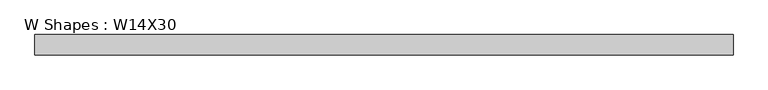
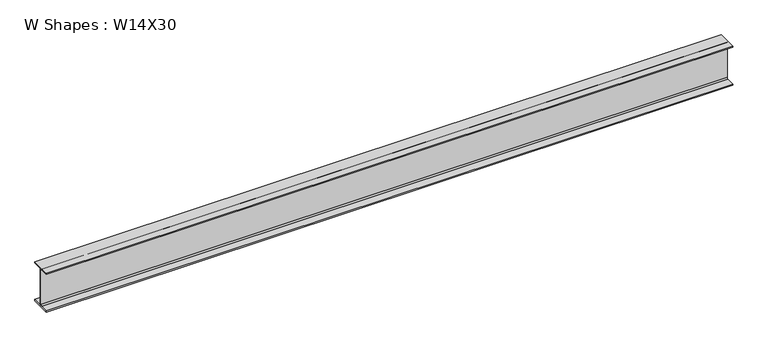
"""IFC4 building model written with IfcOpenShell, lengths in millimetres: beam geometry, W Shapes : W14X30."""

import ifcopenshell
import ifcopenshell.guid

model = None  # the IFC model being written
_history = None  # IfcOwnerHistory: only IFC2X3 demands one
_inside = {}  # id of a spatial element -> (the spatial element, [elements in it])
_under = {}  # id of a project, library or spatial element -> (it, [spatial elements below it])
_declared = {}  # id of a project -> (the project, [libraries it declares])
_typed = {}  # id of a type object -> (the type object, [elements of that type])
_made_of = {}  # id of a material, layer set ... -> (it, [elements and type objects made of it])


def new_model(schema):
    """Start an empty IFC model of exactly this schema.

    Asked for "IFC4X3", IfcOpenShell would pick the latest addendum, in which some entities
    have other attributes; the version numbers below select the first issue.
    IFC2X3 requires an IfcOwnerHistory on every rooted entity: one is made here for all.
    """
    global model, _history
    if schema == "IFC4X3":
        model = ifcopenshell.file(schema_version=(4, 3, 0, 0))
    else:
        model = ifcopenshell.file(schema=schema)
    _inside.clear()
    _under.clear()
    _declared.clear()
    _typed.clear()
    _made_of.clear()
    _history = None
    if model.schema == "IFC2X3":
        org = make("IfcOrganization", Name="unknown")
        user = make(
            "IfcPersonAndOrganization",
            ThePerson=make("IfcPerson", FamilyName="unknown"),
            TheOrganization=org,
        )
        app = make(
            "IfcApplication",
            ApplicationDeveloper=org,
            Version="unknown",
            ApplicationFullName="unknown",
            ApplicationIdentifier="unknown",
        )
        _history = make(
            "IfcOwnerHistory",
            OwningUser=user,
            OwningApplication=app,
            ChangeAction="ADDED",
            CreationDate=0,
        )
    return model


def make(cls, **values):
    """One entity of the class cls with the attributes given. An attribute that is None is left unset."""
    return model.create_entity(
        cls, **{name: value for name, value in values.items() if value is not None}
    )


def rooted(cls, **values):
    """An entity with a GlobalId (a new one), such as an element, a storey or a relation."""
    return make(cls, GlobalId=ifcopenshell.guid.new(), OwnerHistory=_history, **values)


def si_unit(unit_type, name, prefix=None):
    """IfcSIUnit, for example si_unit("LENGTHUNIT", "METRE", prefix="MILLI")."""
    return make("IfcSIUnit", UnitType=unit_type, Prefix=prefix, Name=name)


def assignment(units):
    """IfcUnitAssignment: the units of a project."""
    return None if units is None else make("IfcUnitAssignment", Units=units)


def point(xyz):
    """IfcCartesianPoint."""
    return None if xyz is None else make("IfcCartesianPoint", Coordinates=xyz)


def direction(xyz):
    """IfcDirection."""
    return None if xyz is None else make("IfcDirection", DirectionRatios=xyz)


def frame(location, z_axis=None, x_axis=None):
    """IfcAxis2Placement3D, a coordinate frame: its origin and axes. An axis left out is left unset."""
    return make(
        "IfcAxis2Placement3D",
        Location=point(location),
        Axis=direction(z_axis),
        RefDirection=direction(x_axis),
    )


def frame_2d(location, x_axis=None):
    """IfcAxis2Placement2D, a coordinate frame in the plane: its origin and x axis."""
    return make(
        "IfcAxis2Placement2D", Location=point(location), RefDirection=direction(x_axis)
    )


def origin():
    """The frame at (0, 0, 0) with its axes left unset."""
    return frame((0.0, 0.0, 0.0))


def place(relative_to, where):
    """IfcLocalPlacement: puts the frame where relative to a parent placement (None: the world)."""
    return make(
        "IfcLocalPlacement", PlacementRelTo=relative_to, RelativePlacement=where
    )


def context(
    kind, dimensions, precision=None, world=None, true_north=None, identifier=None
):
    """IfcGeometricRepresentationContext, for example the 3D "Model" context."""
    return make(
        "IfcGeometricRepresentationContext",
        ContextIdentifier=identifier,
        ContextType=kind,
        CoordinateSpaceDimension=dimensions,
        Precision=precision,
        WorldCoordinateSystem=world,
        TrueNorth=true_north,
    )


def project(units=None, contexts=None):
    """IfcProject with its units and contexts."""
    return rooted(
        "IfcProject",
        Name="project",
        RepresentationContexts=contexts,
        UnitsInContext=assignment(units),
    )


def spatial(cls, under=None, at=None, **own):
    """A site, building, storey or space (cls), placed at a placement, below another one or the project."""
    s = rooted(cls, ObjectPlacement=at, **own)
    if under is not None:
        _under.setdefault(under.id(), (under, []))[1].append(s)
    return s


def polyline(points):
    """IfcPolyline through the points."""
    return make("IfcPolyline", Points=[point(p) for p in points])


def circle_curve(where, radius):
    """IfcCircle in the frame where."""
    return make("IfcCircle", Position=where, Radius=radius)


def trimmed(basis, trim1, trim2, sense, master):
    """IfcTrimmedCurve: the piece of a basis curve between two trims."""
    return make(
        "IfcTrimmedCurve",
        BasisCurve=basis,
        Trim1=trim1,
        Trim2=trim2,
        SenseAgreement=sense,
        MasterRepresentation=master,
    )


def segment(curve, same_sense, transition):
    """IfcCompositeCurveSegment."""
    return make(
        "IfcCompositeCurveSegment",
        Transition=transition,
        SameSense=same_sense,
        ParentCurve=curve,
    )


def composite_curve(segments, self_intersect=None):
    """IfcCompositeCurve: segments joined end to end."""
    return make("IfcCompositeCurve", Segments=segments, SelfIntersect=self_intersect)


def outline(outer, holes=None, kind="AREA"):
    """IfcArbitraryClosedProfileDef: a profile drawn as a closed curve; with holes, ...WithVoids."""
    if holes is None:
        return make("IfcArbitraryClosedProfileDef", ProfileType=kind, OuterCurve=outer)
    return make(
        "IfcArbitraryProfileDefWithVoids",
        ProfileType=kind,
        OuterCurve=outer,
        InnerCurves=holes,
    )


def extrude(swept, where, along, depth):
    """IfcExtrudedAreaSolid: the profile swept, set in the frame where, extruded along a direction by depth."""
    return make(
        "IfcExtrudedAreaSolid",
        SweptArea=swept,
        Position=where,
        ExtrudedDirection=direction(along),
        Depth=depth,
    )


def shape(context_of_items, identifier, shape_type, items):
    """IfcShapeRepresentation: the items that make up one representation, for example the "Body"."""
    return make(
        "IfcShapeRepresentation",
        ContextOfItems=context_of_items,
        RepresentationIdentifier=identifier,
        RepresentationType=shape_type,
        Items=items,
    )


def source(mapping_origin, context_of_items, identifier, shape_type, items):
    """IfcRepresentationMap: a shape defined once, which mapped items show again and again."""
    return make(
        "IfcRepresentationMap",
        MappingOrigin=mapping_origin,
        MappedRepresentation=shape(context_of_items, identifier, shape_type, items),
    )


def transform(
    local_origin,
    x_axis=None,
    y_axis=None,
    z_axis=None,
    scale=None,
    scale2=None,
    scale3=None,
    uniform=True,
):
    """IfcCartesianTransformationOperator3D, or its non-uniform kind. x_axis, y_axis, z_axis: its Axis1, 2, 3."""
    if uniform:
        return make(
            "IfcCartesianTransformationOperator3D",
            Axis1=direction(x_axis),
            Axis2=direction(y_axis),
            LocalOrigin=point(local_origin),
            Scale=scale,
            Axis3=direction(z_axis),
        )
    return make(
        "IfcCartesianTransformationOperator3DnonUniform",
        Axis1=direction(x_axis),
        Axis2=direction(y_axis),
        LocalOrigin=point(local_origin),
        Scale=scale,
        Axis3=direction(z_axis),
        Scale2=scale2,
        Scale3=scale3,
    )


def mapped(mapping_source, mapping_target):
    """IfcMappedItem: shows the shape of a source again, moved by a transform."""
    return make(
        "IfcMappedItem", MappingSource=mapping_source, MappingTarget=mapping_target
    )


def made_of(thing, what):
    """Note that an element or type object is made of a material, layer set ...; save() writes the relation."""
    if what is not None:
        _made_of.setdefault(what.id(), (what, []))[1].append(thing)
    return thing


def element(
    cls,
    number,
    at=None,
    inside=None,
    cuts=None,
    type_object=None,
    material=None,
    context=None,
    identifier="Body",
    shape_type=None,
    held_by="IfcProductDefinitionShape",
    body=None,
    shapes=None,
    **own,
):
    """One element of the class cls, such as IfcWall. Its Tag is "e" and its number.

    at: its placement. inside: the storey or other place that contains it. cuts: it is an
    opening in that element (IfcRelVoidsElement). A single representation is given by context,
    identifier, shape_type and body (its items); several are given by shapes. held_by: the class
    of the entity that holds the representations. save() writes the other relations.
    """
    e = rooted(cls, Tag="e%d" % number, ObjectPlacement=at, **own)
    if body is not None:
        shapes = [shape(context, identifier, shape_type, body)]
    if shapes is not None:
        e.Representation = make(held_by, Representations=shapes)
    if inside is not None:
        _inside.setdefault(inside.id(), (inside, []))[1].append(e)
    if cuts is not None:
        rooted(
            "IfcRelVoidsElement", RelatingBuildingElement=cuts, RelatedOpeningElement=e
        )
    if type_object is not None:
        _typed.setdefault(type_object.id(), (type_object, []))[1].append(e)
    return made_of(e, material)


def aggregate(whole, parts):
    """IfcRelAggregates: a whole, such as a stair, and the parts it consists of."""
    return rooted("IfcRelAggregates", RelatingObject=whole, RelatedObjects=parts)


def save(model, path):
    """Write the relations noted so far, then the file.

    IfcRelAggregates (storeys below a building ...), IfcRelContainedInSpatialStructure (elements
    in a storey), IfcRelDefinesByType, IfcRelAssociatesMaterial and IfcRelDeclares: one each for
    every whole, place, type object, material and project.
    """
    for whole, parts in _under.values():
        aggregate(whole, parts)
    for where, things in _inside.values():
        rooted(
            "IfcRelContainedInSpatialStructure",
            RelatedElements=things,
            RelatingStructure=where,
        )
    for kind, things in _typed.values():
        rooted("IfcRelDefinesByType", RelatedObjects=things, RelatingType=kind)
    for what, things in _made_of.values():
        rooted("IfcRelAssociatesMaterial", RelatedObjects=things, RelatingMaterial=what)
    for by, libraries in _declared.values():
        rooted("IfcRelDeclares", RelatingContext=by, RelatedDefinitions=libraries)
    model.write(path)


def w_shapes_w14x30_259210d1(model_context):
    return source(origin(), model_context, "Body", "SweptSolid", [
        extrude(outline(composite_curve([segment(polyline([(85.471, -165.354), (85.471, -175.26), (-85.471, -175.26), (-85.471, -165.354), (-13.589, -165.354)]), True, "CONTINUOUS"), segment(trimmed(circle_curve(frame_2d((-13.589, -155.194)), 10.16), [point((-13.589, -165.354))], [point((-3.429, -155.194))], True, "CARTESIAN"), True, "CONTINUOUS"), segment(polyline([(-3.429, -155.194), (-3.429, 155.194)]), True, "CONTINUOUS"), segment(trimmed(circle_curve(frame_2d((-13.589, 155.194)), 10.16), [point((-3.429, 155.194))], [point((-13.589, 165.354))], True, "CARTESIAN"), True, "CONTINUOUS"), segment(polyline([(-13.589, 165.354), (-85.471, 165.354), (-85.471, 175.26), (85.471, 175.26), (85.471, 165.354), (13.589, 165.354)]), True, "CONTINUOUS"), segment(trimmed(circle_curve(frame_2d((13.589, 155.194)), 10.16), [point((13.589, 165.354))], [point((3.429, 155.194))], True, "CARTESIAN"), True, "CONTINUOUS"), segment(polyline([(3.429, 155.194), (3.429, -155.194)]), True, "CONTINUOUS"), segment(trimmed(circle_curve(frame_2d((13.589, -155.194)), 10.16), [point((3.429, -155.194))], [point((13.589, -165.354))], True, "CARTESIAN"), True, "CONTINUOUS"), segment(polyline([(13.589, -165.354), (85.471, -165.354)]), True, "CONTINUOUS")], self_intersect=False)), frame((-2934.208, 0.0, 0.0), z_axis=(1.0, 0.0, 0.0), x_axis=(0.0, 1.0, 0.0)), (0.0, 0.0, 1.0), 5868.416),
    ])


if __name__ == "__main__":
    model = new_model("IFC4")
    model_context = context("Model", 3, world=origin())
    ifc_project = project(units=[si_unit("LENGTHUNIT", "METRE", prefix="MILLI")], contexts=[model_context])
    site = spatial("IfcSite", under=ifc_project)
    building = spatial("IfcBuilding", under=site)
    placement = place(None, origin())
    w_shapes_w14x30_shape = w_shapes_w14x30_259210d1(model_context)
    element("IfcBeam", 1, ObjectType="W Shapes : W14X30", at=placement, inside=building, context=model_context, shape_type="MappedRepresentation", body=[
        mapped(w_shapes_w14x30_shape, transform((0.0, 0.0, 0.0), x_axis=(1.0, 0.0, 0.0), y_axis=(0.0, 1.0, 0.0), z_axis=(0.0, 0.0, 1.0))),
    ])
    save(model, "model.ifc")
